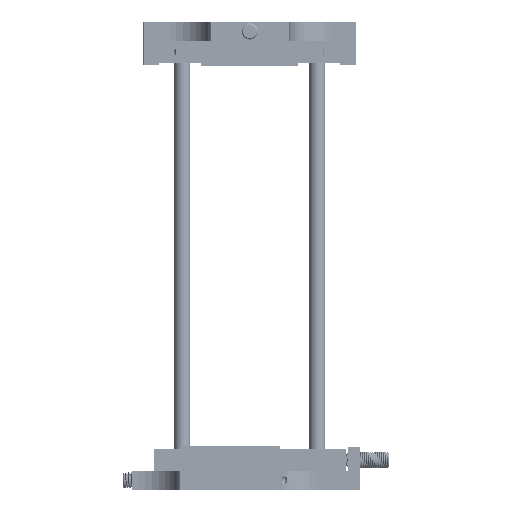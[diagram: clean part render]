
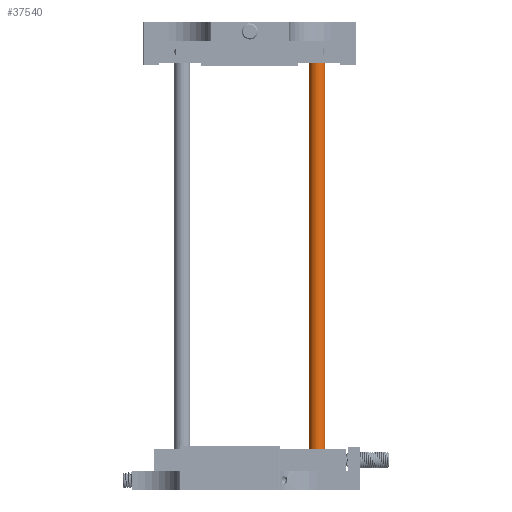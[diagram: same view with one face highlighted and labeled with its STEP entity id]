
A CAD part, top view. The second image highlights one B-rep face of the part: STEP entity #37540.
In plain terms, the highlighted cylindrical face has radius 3 mm (diameter 6 mm), a partial arc.
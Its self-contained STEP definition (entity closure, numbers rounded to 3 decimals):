
#1098 = VECTOR ( 'NONE', #14996, 1000. ) ;
#1867 = DIRECTION ( 'NONE',  ( 0., 0., 1. ) ) ;
#2517 = CIRCLE ( 'NONE', #19270, 3. ) ;
#4723 = CARTESIAN_POINT ( 'NONE',  ( -3., 0., 30. ) ) ;
#4736 = VERTEX_POINT ( 'NONE', #4723 ) ;
#4834 = CARTESIAN_POINT ( 'NONE',  ( 3., 0., -118.27 ) ) ;
#5841 = CARTESIAN_POINT ( 'NONE',  ( 0., 0., -118.27 ) ) ;
#9489 = VERTEX_POINT ( 'NONE', #11881 ) ;
#9522 = ORIENTED_EDGE ( 'NONE', *, *, #48603, .T. ) ;
#10431 = FACE_OUTER_BOUND ( 'NONE', #62498, .T. ) ;
#11881 = CARTESIAN_POINT ( 'NONE',  ( 3., 0., -122.27 ) ) ;
#14820 = CARTESIAN_POINT ( 'NONE',  ( 3., 0., 30. ) ) ;
#14996 = DIRECTION ( 'NONE',  ( 0., 0., 1. ) ) ;
#15677 = CYLINDRICAL_SURFACE ( 'NONE', #20901, 3. ) ;
#16708 = EDGE_CURVE ( 'NONE', #19417, #4736, #33301, .T. ) ;
#18072 = EDGE_CURVE ( 'NONE', #9489, #62219, #34697, .T. ) ;
#19270 = AXIS2_PLACEMENT_3D ( 'NONE', #54671, #39283, #58928 ) ;
#19417 = VERTEX_POINT ( 'NONE', #52081 ) ;
#20901 = AXIS2_PLACEMENT_3D ( 'NONE', #5841, #51409, #40942 ) ;
#23170 = DIRECTION ( 'NONE',  ( 1., 0., 0. ) ) ;
#29060 = ORIENTED_EDGE ( 'NONE', *, *, #32712, .F. ) ;
#29252 = CIRCLE ( 'NONE', #52286, 3. ) ;
#32712 = EDGE_CURVE ( 'NONE', #4736, #62219, #29252, .T. ) ;
#32981 = DIRECTION ( 'NONE',  ( 0., 0., 1. ) ) ;
#33301 = LINE ( 'NONE', #33961, #39769 ) ;
#33961 = CARTESIAN_POINT ( 'NONE',  ( -3., 0., -118.27 ) ) ;
#34697 = LINE ( 'NONE', #4834, #1098 ) ;
#37540 = ADVANCED_FACE ( 'NONE', ( #10431 ), #15677, .T. ) ;
#37621 = CARTESIAN_POINT ( 'NONE',  ( 0., 0., 30. ) ) ;
#39283 = DIRECTION ( 'NONE',  ( 0., 0., 1. ) ) ;
#39769 = VECTOR ( 'NONE', #32981, 1000. ) ;
#40942 = DIRECTION ( 'NONE',  ( 1., 0., 0. ) ) ;
#46774 = ORIENTED_EDGE ( 'NONE', *, *, #18072, .T. ) ;
#48603 = EDGE_CURVE ( 'NONE', #19417, #9489, #2517, .T. ) ;
#51409 = DIRECTION ( 'NONE',  ( 0., 0., 1. ) ) ;
#52081 = CARTESIAN_POINT ( 'NONE',  ( -3., 0., -122.27 ) ) ;
#52286 = AXIS2_PLACEMENT_3D ( 'NONE', #37621, #1867, #23170 ) ;
#54671 = CARTESIAN_POINT ( 'NONE',  ( 0., 0., -122.27 ) ) ;
#58928 = DIRECTION ( 'NONE',  ( 1., 0., 0. ) ) ;
#60401 = ORIENTED_EDGE ( 'NONE', *, *, #16708, .F. ) ;
#62219 = VERTEX_POINT ( 'NONE', #14820 ) ;
#62498 = EDGE_LOOP ( 'NONE', ( #60401, #9522, #46774, #29060 ) ) ;
